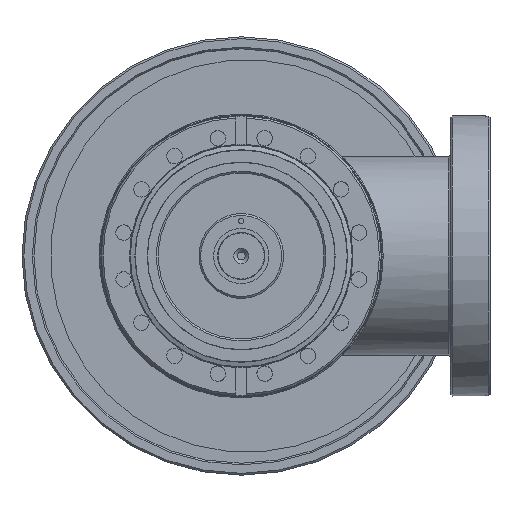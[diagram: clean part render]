
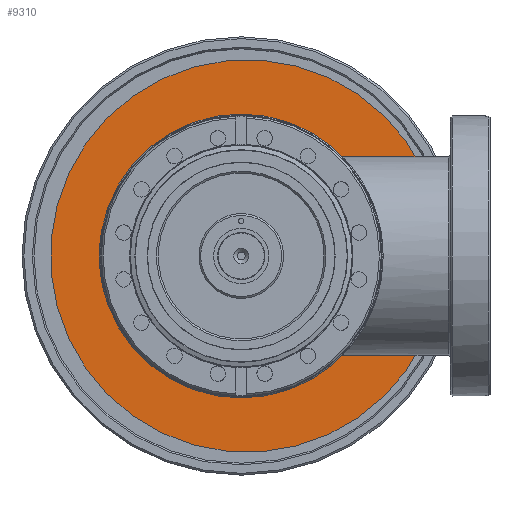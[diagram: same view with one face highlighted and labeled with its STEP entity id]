
A CAD part, left-side view. The second image highlights one B-rep face of the part: STEP entity #9310.
In plain terms, the highlighted planar face has unit normal (-1, 0, 0) as drawn and (0, -1, 0) by its records, which use the part's own axes.
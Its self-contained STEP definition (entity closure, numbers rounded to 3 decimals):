
#7603=PLANE('',#24192);
#8219=FACE_BOUND('',#11229,.T.);
#8220=FACE_BOUND('',#11230,.T.);
#8221=FACE_BOUND('',#11231,.T.);
#8222=FACE_BOUND('',#11232,.T.);
#8223=FACE_BOUND('',#11233,.T.);
#8224=FACE_BOUND('',#11234,.T.);
#9310=ADVANCED_FACE('',(#8219,#8220,#8221,#8222,#8223,#8224),#7603,.T.);
#11229=EDGE_LOOP('',(#13681));
#11230=EDGE_LOOP('',(#13682));
#11231=EDGE_LOOP('',(#13683));
#11232=EDGE_LOOP('',(#13684));
#11233=EDGE_LOOP('',(#13685));
#11234=EDGE_LOOP('',(#13686));
#12986=CIRCLE('',#24186,5.975);
#12987=CIRCLE('',#24187,5.975);
#12988=CIRCLE('',#24188,111.85);
#12989=CIRCLE('',#24189,17.15);
#12990=CIRCLE('',#24190,5.975);
#12991=CIRCLE('',#24191,5.975);
#13681=ORIENTED_EDGE('',*,*,#20720,.T.);
#13682=ORIENTED_EDGE('',*,*,#20721,.T.);
#13683=ORIENTED_EDGE('',*,*,#20722,.T.);
#13684=ORIENTED_EDGE('',*,*,#20723,.F.);
#13685=ORIENTED_EDGE('',*,*,#20724,.T.);
#13686=ORIENTED_EDGE('',*,*,#20725,.T.);
#18765=VERTEX_POINT('',#30628);
#18766=VERTEX_POINT('',#30630);
#18767=VERTEX_POINT('',#30632);
#18768=VERTEX_POINT('',#30634);
#18769=VERTEX_POINT('',#30636);
#18770=VERTEX_POINT('',#30638);
#20720=EDGE_CURVE('',#18765,#18765,#12986,.T.);
#20721=EDGE_CURVE('',#18766,#18766,#12987,.T.);
#20722=EDGE_CURVE('',#18767,#18767,#12988,.T.);
#20723=EDGE_CURVE('',#18768,#18768,#12989,.T.);
#20724=EDGE_CURVE('',#18769,#18769,#12990,.T.);
#20725=EDGE_CURVE('',#18770,#18770,#12991,.T.);
#24186=AXIS2_PLACEMENT_3D('',#30627,#25972,#25973);
#24187=AXIS2_PLACEMENT_3D('',#30629,#25974,#25975);
#24188=AXIS2_PLACEMENT_3D('',#30631,#25976,#25977);
#24189=AXIS2_PLACEMENT_3D('',#30633,#25978,#25979);
#24190=AXIS2_PLACEMENT_3D('',#30635,#25980,#25981);
#24191=AXIS2_PLACEMENT_3D('',#30637,#25982,#25983);
#24192=AXIS2_PLACEMENT_3D('',#30639,#25984,#25985);
#25972=DIRECTION('',(0.,1.,0.));
#25973=DIRECTION('',(1.,0.,0.));
#25974=DIRECTION('',(0.,1.,0.));
#25975=DIRECTION('',(-1.,0.,0.));
#25976=DIRECTION('',(0.,-1.,0.));
#25977=DIRECTION('',(0.,0.,-1.));
#25978=DIRECTION('',(0.,-1.,0.));
#25979=DIRECTION('',(0.,0.,-1.));
#25980=DIRECTION('',(0.,1.,0.));
#25981=DIRECTION('',(0.,0.,-1.));
#25982=DIRECTION('',(0.,1.,0.));
#25983=DIRECTION('',(0.,0.,1.));
#25984=DIRECTION('',(0.,-1.,0.));
#25985=DIRECTION('',(0.,0.,-1.));
#30627=CARTESIAN_POINT('',(0.,0.,48.));
#30628=CARTESIAN_POINT('',(5.975,0.,48.));
#30629=CARTESIAN_POINT('',(0.,0.,-48.));
#30630=CARTESIAN_POINT('',(-5.975,0.,-48.));
#30631=CARTESIAN_POINT('',(0.,0.,0.));
#30632=CARTESIAN_POINT('',(0.,0.,-111.85));
#30633=CARTESIAN_POINT('',(0.,0.,0.));
#30634=CARTESIAN_POINT('',(0.,0.,-17.15));
#30635=CARTESIAN_POINT('',(48.,0.,0.));
#30636=CARTESIAN_POINT('',(48.,0.,-5.975));
#30637=CARTESIAN_POINT('',(-48.,0.,0.));
#30638=CARTESIAN_POINT('',(-48.,0.,5.975));
#30639=CARTESIAN_POINT('',(17.15,0.,0.));
